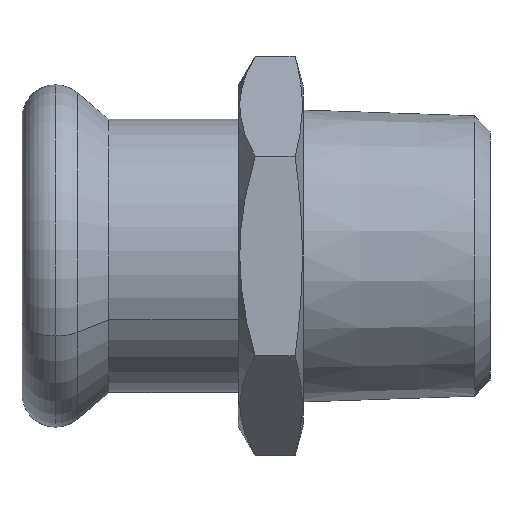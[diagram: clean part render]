
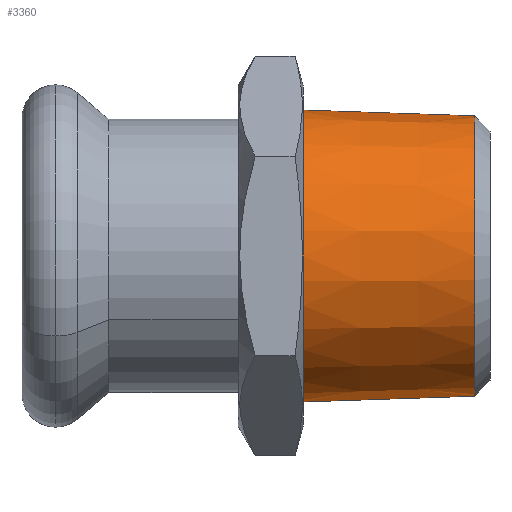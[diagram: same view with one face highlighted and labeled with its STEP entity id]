
A CAD part, front view. The second image highlights one B-rep face of the part: STEP entity #3360.
In plain terms, the highlighted conical face has half-angle 1.909 degrees and reference radius 13.5 mm.
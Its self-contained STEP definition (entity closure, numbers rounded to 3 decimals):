
#2950=CARTESIAN_POINT('',(-69.571,-198.006,
0.));
#2960=DIRECTION('',(-1.,0.,0.));
#2970=DIRECTION('',(0.,0.,1.));
#2980=AXIS2_PLACEMENT_3D('',#2950,#2960,#2970);
#2990=CONICAL_SURFACE('',#2980,13.5,0.033);
#3000=CARTESIAN_POINT('',(-69.571,-198.006,-13.5));
#3010=DIRECTION('',(-0.999,0.,-0.033));
#3020=VECTOR('',#3010,1.);
#3030=LINE('',#3000,#3020);
#3040=CARTESIAN_POINT('',(-53.67,-198.006,-12.97
));
#3050=VERTEX_POINT('',#3040);
#3060=CARTESIAN_POINT('',(-69.571,-198.006,-13.5));
#3070=VERTEX_POINT('',#3060);
#3080=EDGE_CURVE('',#3050,#3070,#3030,.T.);
#3090=ORIENTED_EDGE('',*,*,#3080,.F.);
#3100=CARTESIAN_POINT('',(-69.571,-198.006,
0.));
#3110=DIRECTION('',(-1.,0.,0.));
#3120=DIRECTION('',(0.,0.,1.));
#3130=AXIS2_PLACEMENT_3D('',#3100,#3110,#3120);
#3140=CIRCLE('',#3130,13.5);
#3150=CARTESIAN_POINT('',(-69.571,-198.006,13.5));
#3160=VERTEX_POINT('',#3150);
#3170=EDGE_CURVE('',#3070,#3160,#3140,.T.);
#3180=ORIENTED_EDGE('',*,*,#3170,.F.);
#3190=CARTESIAN_POINT('',(-69.571,-198.006,13.5));
#3200=DIRECTION('',(-0.999,0.,0.033));
#3210=VECTOR('',#3200,1.);
#3220=LINE('',#3190,#3210);
#3230=CARTESIAN_POINT('',(-53.67,-198.006,12.97
));
#3240=VERTEX_POINT('',#3230);
#3250=EDGE_CURVE('',#3240,#3160,#3220,.T.);
#3260=ORIENTED_EDGE('',*,*,#3250,.T.);
#3270=CARTESIAN_POINT('',(-53.67,-198.006,
0.));
#3280=DIRECTION('',(-1.,0.,0.));
#3290=DIRECTION('',(0.,0.,1.));
#3300=AXIS2_PLACEMENT_3D('',#3270,#3280,#3290);
#3310=CIRCLE('',#3300,12.97);
#3320=EDGE_CURVE('',#3050,#3240,#3310,.T.);
#3330=ORIENTED_EDGE('',*,*,#3320,.T.);
#3340=EDGE_LOOP('',(#3330,#3260,#3180,#3090));
#3350=FACE_OUTER_BOUND('',#3340,.T.);
#3360=ADVANCED_FACE('',(#3350),#2990,.T.);
